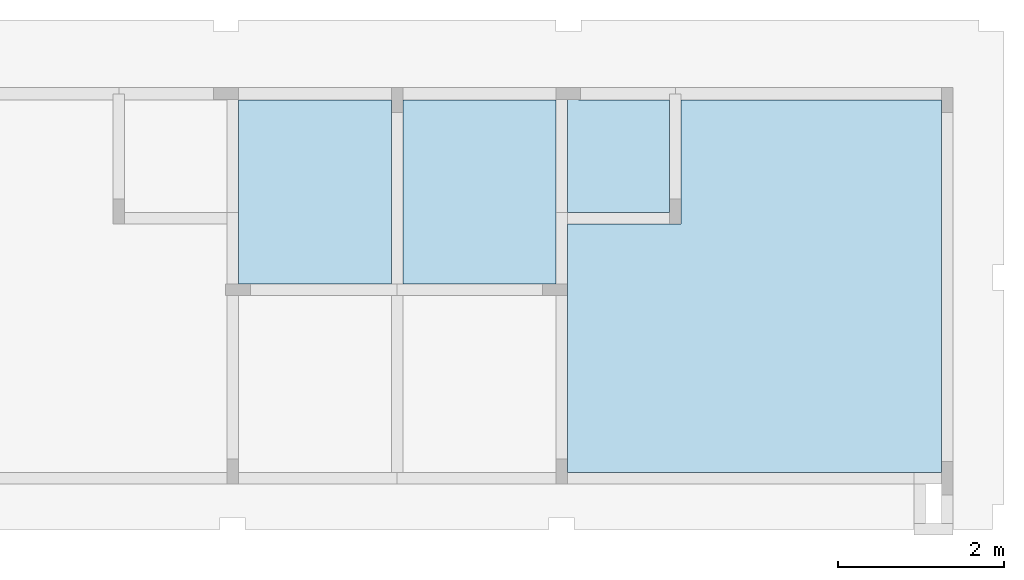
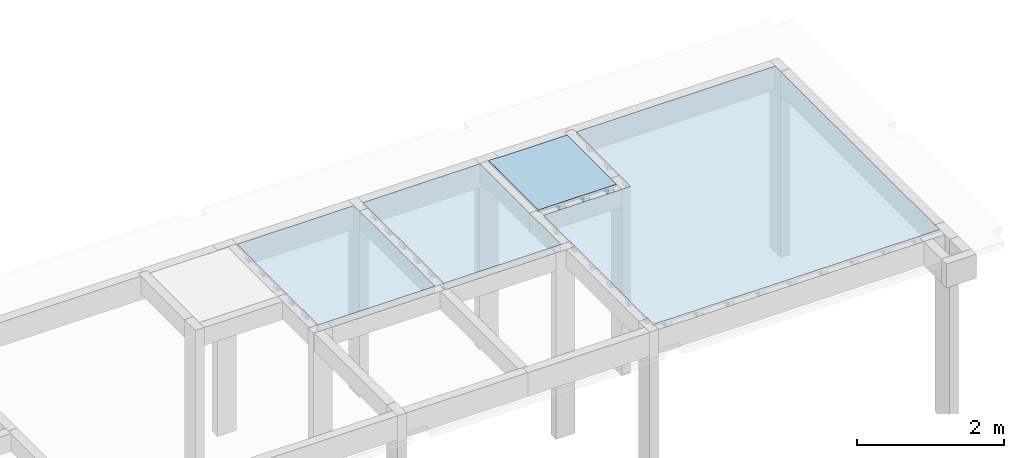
# One storey, part 4 of 4: 4 slabs.
"""IFC4 building model written with IfcOpenShell, lengths in centimetres."""

from ifc_helpers import new_model, si_unit, derived_unit, frame, origin_with_axes, place, context, project, spatial, polyline, outline, extrude, faceted_brep, material, element, save


model = new_model("IFC4")

# Units and contexts
model_context = context("Model", 3, precision=1e-05, world=origin_with_axes(), identifier="Body")
ifc_project = project(units=[si_unit("LENGTHUNIT", "METRE", prefix="CENTI"), si_unit("VOLUMEUNIT", "CUBIC_METRE"), si_unit("AREAUNIT", "SQUARE_METRE"), si_unit("POWERUNIT", "WATT"), si_unit("LUMINOUSFLUXUNIT", "LUMEN"), si_unit("ELECTRICCURRENTUNIT", "AMPERE"), si_unit("PRESSUREUNIT", "PASCAL", prefix="KILO"), si_unit("MASSUNIT", "GRAM", prefix="KILO"), si_unit("PLANEANGLEUNIT", "RADIAN"), derived_unit("VOLUMETRICFLOWRATEUNIT", [(si_unit("LENGTHUNIT", "METRE"), 3), (si_unit("TIMEUNIT", "SECOND"), -1)])], contexts=[model_context])

# Site, building, storey
site_placement = place(None, origin_with_axes())
site = spatial("IfcSite", under=ifc_project, at=site_placement)
building_placement = place(site_placement, frame((0.0, 0.0, 2.0)))
building = spatial("IfcBuilding", under=site, at=building_placement)
placement = place(building_placement, origin_with_axes())
storey_placement = place(placement, frame((0.0, 0.0, 310.0), z_axis=(0.0, 0.0, 1.0), x_axis=(1.0, 0.0, 0.0)))
storey = spatial("IfcBuildingStorey", under=building, at=storey_placement, Name="RESPALDO", CompositionType="ELEMENT", Elevation=312.0)

# Slabs
ifc_material = material(Name="Concreto")
slab_1_placement = place(storey_placement, frame((1082.305, 413.105, 0.0), z_axis=(0.0, 0.0, 1.0), x_axis=(1.0, 0.0, 0.0)))
element("IfcSlab", 1, at=slab_1_placement, inside=storey, material=ifc_material, Name="L6", PredefinedType="FLOOR", context=model_context, shape_type="SolidModel", body=[
    extrude(outline(polyline([(92.024, -110.524), (92.025, 110.525), (-92.025, 110.525), (-92.024, -110.525), (92.024, -110.524), (92.024, -110.524)])), frame((0.0, 0.0, -4.0), z_axis=(0.0, 0.0, 1.0), x_axis=(1.0, 0.0, 0.0)), (0.0, 0.0, 1.0), 4.0),
    faceted_brep([(-92.0245, -67.53, -12.0), (92.0245, -67.53, -12.0), (92.0245, -76.53, -12.0), (-92.0245, -76.53, -12.0), (-92.0245, -76.53, -4.0), (92.0245, -76.53, -4.0), (92.0245, -67.53, -4.0), (-92.0245, -67.53, -4.0)], [[[0, 1, 2, 3]], [[4, 5, 6, 7]], [[4, 3, 5]], [[3, 2, 5]], [[5, 2, 6]], [[2, 1, 6]], [[6, 1, 7]], [[1, 0, 7]], [[7, 0, 4]], [[0, 3, 4]]]),
    faceted_brep([(-92.0245, -66.03, -12.0), (92.0245, -66.03, -12.0), (92.0245, -67.53, -12.0), (-92.0245, -67.53, -12.0), (-92.0245, -67.53, -9.0), (92.0245, -67.53, -9.0), (92.0245, -66.03, -9.0), (-92.0245, -66.03, -9.0)], [[[0, 1, 2, 3]], [[4, 5, 6, 7]], [[4, 3, 5]], [[3, 2, 5]], [[5, 2, 6]], [[2, 1, 6]], [[6, 1, 7]], [[1, 0, 7]], [[7, 0, 4]], [[0, 3, 4]]]),
    faceted_brep([(-92.0245, -76.53, -12.0), (92.0245, -76.53, -12.0), (92.0245, -78.03, -12.0), (-92.0245, -78.03, -12.0), (-92.0245, -78.03, -9.0), (92.0245, -78.03, -9.0), (92.0245, -76.53, -9.0), (-92.0245, -76.53, -9.0)], [[[0, 1, 2, 3]], [[4, 5, 6, 7]], [[4, 3, 5]], [[3, 2, 5]], [[5, 2, 6]], [[2, 1, 6]], [[6, 1, 7]], [[1, 0, 7]], [[7, 0, 4]], [[0, 3, 4]]]),
    faceted_brep([(-92.0245, -28.53, -12.0), (92.0245, -28.53, -12.0), (92.0245, -37.53, -12.0), (-92.0245, -37.53, -12.0), (-92.0245, -37.53, -4.0), (92.0245, -37.53, -4.0), (92.0245, -28.53, -4.0), (-92.0245, -28.53, -4.0)], [[[0, 1, 2, 3]], [[4, 5, 6, 7]], [[4, 3, 5]], [[3, 2, 5]], [[5, 2, 6]], [[2, 1, 6]], [[6, 1, 7]], [[1, 0, 7]], [[7, 0, 4]], [[0, 3, 4]]]),
    faceted_brep([(-92.0245, -27.03, -12.0), (92.0245, -27.03, -12.0), (92.0245, -28.53, -12.0), (-92.0245, -28.53, -12.0), (-92.0245, -28.53, -9.0), (92.0245, -28.53, -9.0), (92.0245, -27.03, -9.0), (-92.0245, -27.03, -9.0)], [[[0, 1, 2, 3]], [[4, 5, 6, 7]], [[4, 3, 5]], [[3, 2, 5]], [[5, 2, 6]], [[2, 1, 6]], [[6, 1, 7]], [[1, 0, 7]], [[7, 0, 4]], [[0, 3, 4]]]),
    faceted_brep([(-92.0245, -37.53, -12.0), (92.0245, -37.53, -12.0), (92.0245, -39.03, -12.0), (-92.0245, -39.03, -12.0), (-92.0245, -39.03, -9.0), (92.0245, -39.03, -9.0), (92.0245, -37.53, -9.0), (-92.0245, -37.53, -9.0)], [[[0, 1, 2, 3]], [[4, 5, 6, 7]], [[4, 3, 5]], [[3, 2, 5]], [[5, 2, 6]], [[2, 1, 6]], [[6, 1, 7]], [[1, 0, 7]], [[7, 0, 4]], [[0, 3, 4]]]),
    faceted_brep([(-92.0245, 10.47, -12.0), (92.0245, 10.47, -12.0), (92.0245, 1.47, -12.0), (-92.0245, 1.47, -12.0), (-92.0245, 1.47, -4.0), (92.0245, 1.47, -4.0), (92.0245, 10.47, -4.0), (-92.0245, 10.47, -4.0)], [[[0, 1, 2, 3]], [[4, 5, 6, 7]], [[4, 3, 5]], [[3, 2, 5]], [[5, 2, 6]], [[2, 1, 6]], [[6, 1, 7]], [[1, 0, 7]], [[7, 0, 4]], [[0, 3, 4]]]),
    faceted_brep([(-92.0245, 11.97, -12.0), (92.0245, 11.97, -12.0), (92.0245, 10.47, -12.0), (-92.0245, 10.47, -12.0), (-92.0245, 10.47, -9.0), (92.0245, 10.47, -9.0), (92.0245, 11.97, -9.0), (-92.0245, 11.97, -9.0)], [[[0, 1, 2, 3]], [[4, 5, 6, 7]], [[4, 3, 5]], [[3, 2, 5]], [[5, 2, 6]], [[2, 1, 6]], [[6, 1, 7]], [[1, 0, 7]], [[7, 0, 4]], [[0, 3, 4]]]),
    faceted_brep([(-92.0245, 1.47, -12.0), (92.0245, 1.47, -12.0), (92.0245, -0.03, -12.0), (-92.0245, -0.03, -12.0), (-92.0245, -0.03, -9.0), (92.0245, -0.03, -9.0), (92.0245, 1.47, -9.0), (-92.0245, 1.47, -9.0)], [[[0, 1, 2, 3]], [[4, 5, 6, 7]], [[4, 3, 5]], [[3, 2, 5]], [[5, 2, 6]], [[2, 1, 6]], [[6, 1, 7]], [[1, 0, 7]], [[7, 0, 4]], [[0, 3, 4]]]),
    faceted_brep([(-92.0245, 49.47, -12.0), (92.0245, 49.47, -12.0), (92.0245, 40.47, -12.0), (-92.0245, 40.47, -12.0), (-92.0245, 40.47, -4.0), (92.0245, 40.47, -4.0), (92.0245, 49.47, -4.0), (-92.0245, 49.47, -4.0)], [[[0, 1, 2, 3]], [[4, 5, 6, 7]], [[4, 3, 5]], [[3, 2, 5]], [[5, 2, 6]], [[2, 1, 6]], [[6, 1, 7]], [[1, 0, 7]], [[7, 0, 4]], [[0, 3, 4]]]),
    faceted_brep([(-92.0245, 50.97, -12.0), (92.0245, 50.97, -12.0), (92.0245, 49.47, -12.0), (-92.0245, 49.47, -12.0), (-92.0245, 49.47, -9.0), (92.0245, 49.47, -9.0), (92.0245, 50.97, -9.0), (-92.0245, 50.97, -9.0)], [[[0, 1, 2, 3]], [[4, 5, 6, 7]], [[4, 3, 5]], [[3, 2, 5]], [[5, 2, 6]], [[2, 1, 6]], [[6, 1, 7]], [[1, 0, 7]], [[7, 0, 4]], [[0, 3, 4]]]),
    faceted_brep([(-92.0245, 40.47, -12.0), (92.0245, 40.47, -12.0), (92.0245, 38.97, -12.0), (-92.0245, 38.97, -12.0), (-92.0245, 38.97, -9.0), (92.0245, 38.97, -9.0), (92.0245, 40.47, -9.0), (-92.0245, 40.47, -9.0)], [[[0, 1, 2, 3]], [[4, 5, 6, 7]], [[4, 3, 5]], [[3, 2, 5]], [[5, 2, 6]], [[2, 1, 6]], [[6, 1, 7]], [[1, 0, 7]], [[7, 0, 4]], [[0, 3, 4]]]),
    faceted_brep([(-92.0245, 88.47, -12.0), (92.0245, 88.47, -12.0), (92.0245, 79.47, -12.0), (-92.0245, 79.47, -12.0), (-92.0245, 79.47, -4.0), (92.0245, 79.47, -4.0), (92.0245, 88.47, -4.0), (-92.0245, 88.47, -4.0)], [[[0, 1, 2, 3]], [[4, 5, 6, 7]], [[4, 3, 5]], [[3, 2, 5]], [[5, 2, 6]], [[2, 1, 6]], [[6, 1, 7]], [[1, 0, 7]], [[7, 0, 4]], [[0, 3, 4]]]),
    faceted_brep([(-92.0245, 89.97, -12.0), (92.0245, 89.97, -12.0), (92.0245, 88.47, -12.0), (-92.0245, 88.47, -12.0), (-92.0245, 88.47, -9.0), (92.0245, 88.47, -9.0), (92.0245, 89.97, -9.0), (-92.0245, 89.97, -9.0)], [[[0, 1, 2, 3]], [[4, 5, 6, 7]], [[4, 3, 5]], [[3, 2, 5]], [[5, 2, 6]], [[2, 1, 6]], [[6, 1, 7]], [[1, 0, 7]], [[7, 0, 4]], [[0, 3, 4]]]),
    faceted_brep([(-92.0245, 79.47, -12.0), (92.0245, 79.47, -12.0), (92.0245, 77.97, -12.0), (-92.0245, 77.97, -12.0), (-92.0245, 77.97, -9.0), (92.0245, 77.97, -9.0), (92.0245, 79.47, -9.0), (-92.0245, 79.47, -9.0)], [[[0, 1, 2, 3]], [[4, 5, 6, 7]], [[4, 3, 5]], [[3, 2, 5]], [[5, 2, 6]], [[2, 1, 6]], [[6, 1, 7]], [[1, 0, 7]], [[7, 0, 4]], [[0, 3, 4]]]),
    faceted_brep([(-92.0245, -106.53, -12.0), (92.0245, -106.53, -12.0), (92.0245, -110.5245, -12.0), (-92.0245, -110.5245, -12.0), (-92.0245, -110.5245, -4.0), (92.0245, -110.5245, -4.0), (92.0245, -106.53, -4.0), (-92.0245, -106.53, -4.0)], [[[0, 1, 2, 3]], [[4, 5, 6, 7]], [[4, 3, 5]], [[3, 2, 5]], [[5, 2, 6]], [[2, 1, 6]], [[6, 1, 7]], [[1, 0, 7]], [[7, 0, 4]], [[0, 3, 4]]]),
    faceted_brep([(-92.0245, -105.03, -12.0), (92.0245, -105.03, -12.0), (92.0245, -106.53, -12.0), (-92.0245, -106.53, -12.0), (-92.0245, -106.53, -9.0), (92.0245, -106.53, -9.0), (92.0245, -105.03, -9.0), (-92.0245, -105.03, -9.0)], [[[0, 1, 2, 3]], [[4, 5, 6, 7]], [[4, 3, 5]], [[3, 2, 5]], [[5, 2, 6]], [[2, 1, 6]], [[6, 1, 7]], [[1, 0, 7]], [[7, 0, 4]], [[0, 3, 4]]]),
])
slab_2_placement = place(storey_placement, frame((1280.355, 413.105, 0.0), z_axis=(0.0, 0.0, 1.0), x_axis=(1.0, 0.0, 0.0)))
element("IfcSlab", 2, at=slab_2_placement, inside=storey, material=ifc_material, Name="L7", PredefinedType="FLOOR", context=model_context, shape_type="SolidModel", body=[
    extrude(outline(polyline([(92.025, 110.525), (-92.025, 110.525), (-92.025, -110.524), (92.025, -110.525), (92.025, 110.525), (92.025, 110.525)])), frame((0.0, 0.0, -4.0), z_axis=(0.0, 0.0, 1.0), x_axis=(1.0, 0.0, 0.0)), (0.0, 0.0, 1.0), 4.0),
    faceted_brep([(-92.025, -67.53, -12.0), (92.025, -67.53, -12.0), (92.025, -76.53, -12.0), (-92.025, -76.53, -12.0), (-92.025, -76.53, -4.0), (92.025, -76.53, -4.0), (92.025, -67.53, -4.0), (-92.025, -67.53, -4.0)], [[[0, 1, 2, 3]], [[4, 5, 6, 7]], [[4, 3, 5]], [[3, 2, 5]], [[5, 2, 6]], [[2, 1, 6]], [[6, 1, 7]], [[1, 0, 7]], [[7, 0, 4]], [[0, 3, 4]]]),
    faceted_brep([(-92.025, -66.03, -12.0), (92.025, -66.03, -12.0), (92.025, -67.53, -12.0), (-92.025, -67.53, -12.0), (-92.025, -67.53, -9.0), (92.025, -67.53, -9.0), (92.025, -66.03, -9.0), (-92.025, -66.03, -9.0)], [[[0, 1, 2, 3]], [[4, 5, 6, 7]], [[4, 3, 5]], [[3, 2, 5]], [[5, 2, 6]], [[2, 1, 6]], [[6, 1, 7]], [[1, 0, 7]], [[7, 0, 4]], [[0, 3, 4]]]),
    faceted_brep([(-92.025, -76.53, -12.0), (92.025, -76.53, -12.0), (92.025, -78.03, -12.0), (-92.025, -78.03, -12.0), (-92.025, -78.03, -9.0), (92.025, -78.03, -9.0), (92.025, -76.53, -9.0), (-92.025, -76.53, -9.0)], [[[0, 1, 2, 3]], [[4, 5, 6, 7]], [[4, 3, 5]], [[3, 2, 5]], [[5, 2, 6]], [[2, 1, 6]], [[6, 1, 7]], [[1, 0, 7]], [[7, 0, 4]], [[0, 3, 4]]]),
    faceted_brep([(-92.025, -28.53, -12.0), (92.025, -28.53, -12.0), (92.025, -37.53, -12.0), (-92.025, -37.53, -12.0), (-92.025, -37.53, -4.0), (92.025, -37.53, -4.0), (92.025, -28.53, -4.0), (-92.025, -28.53, -4.0)], [[[0, 1, 2, 3]], [[4, 5, 6, 7]], [[4, 3, 5]], [[3, 2, 5]], [[5, 2, 6]], [[2, 1, 6]], [[6, 1, 7]], [[1, 0, 7]], [[7, 0, 4]], [[0, 3, 4]]]),
    faceted_brep([(-92.025, -27.03, -12.0), (92.025, -27.03, -12.0), (92.025, -28.53, -12.0), (-92.025, -28.53, -12.0), (-92.025, -28.53, -9.0), (92.025, -28.53, -9.0), (92.025, -27.03, -9.0), (-92.025, -27.03, -9.0)], [[[0, 1, 2, 3]], [[4, 5, 6, 7]], [[4, 3, 5]], [[3, 2, 5]], [[5, 2, 6]], [[2, 1, 6]], [[6, 1, 7]], [[1, 0, 7]], [[7, 0, 4]], [[0, 3, 4]]]),
    faceted_brep([(-92.025, -37.53, -12.0), (92.025, -37.53, -12.0), (92.025, -39.03, -12.0), (-92.025, -39.03, -12.0), (-92.025, -39.03, -9.0), (92.025, -39.03, -9.0), (92.025, -37.53, -9.0), (-92.025, -37.53, -9.0)], [[[0, 1, 2, 3]], [[4, 5, 6, 7]], [[4, 3, 5]], [[3, 2, 5]], [[5, 2, 6]], [[2, 1, 6]], [[6, 1, 7]], [[1, 0, 7]], [[7, 0, 4]], [[0, 3, 4]]]),
    faceted_brep([(-92.025, 10.47, -12.0), (92.025, 10.47, -12.0), (92.025, 1.47, -12.0), (-92.025, 1.47, -12.0), (-92.025, 1.47, -4.0), (92.025, 1.47, -4.0), (92.025, 10.47, -4.0), (-92.025, 10.47, -4.0)], [[[0, 1, 2, 3]], [[4, 5, 6, 7]], [[4, 3, 5]], [[3, 2, 5]], [[5, 2, 6]], [[2, 1, 6]], [[6, 1, 7]], [[1, 0, 7]], [[7, 0, 4]], [[0, 3, 4]]]),
    faceted_brep([(-92.025, 11.97, -12.0), (92.025, 11.97, -12.0), (92.025, 10.47, -12.0), (-92.025, 10.47, -12.0), (-92.025, 10.47, -9.0), (92.025, 10.47, -9.0), (92.025, 11.97, -9.0), (-92.025, 11.97, -9.0)], [[[0, 1, 2, 3]], [[4, 5, 6, 7]], [[4, 3, 5]], [[3, 2, 5]], [[5, 2, 6]], [[2, 1, 6]], [[6, 1, 7]], [[1, 0, 7]], [[7, 0, 4]], [[0, 3, 4]]]),
    faceted_brep([(-92.025, 1.47, -12.0), (92.025, 1.47, -12.0), (92.025, -0.03, -12.0), (-92.025, -0.03, -12.0), (-92.025, -0.03, -9.0), (92.025, -0.03, -9.0), (92.025, 1.47, -9.0), (-92.025, 1.47, -9.0)], [[[0, 1, 2, 3]], [[4, 5, 6, 7]], [[4, 3, 5]], [[3, 2, 5]], [[5, 2, 6]], [[2, 1, 6]], [[6, 1, 7]], [[1, 0, 7]], [[7, 0, 4]], [[0, 3, 4]]]),
    faceted_brep([(-92.025, 49.47, -12.0), (92.025, 49.47, -12.0), (92.025, 40.47, -12.0), (-92.025, 40.47, -12.0), (-92.025, 40.47, -4.0), (92.025, 40.47, -4.0), (92.025, 49.47, -4.0), (-92.025, 49.47, -4.0)], [[[0, 1, 2, 3]], [[4, 5, 6, 7]], [[4, 3, 5]], [[3, 2, 5]], [[5, 2, 6]], [[2, 1, 6]], [[6, 1, 7]], [[1, 0, 7]], [[7, 0, 4]], [[0, 3, 4]]]),
    faceted_brep([(-92.025, 50.97, -12.0), (92.025, 50.97, -12.0), (92.025, 49.47, -12.0), (-92.025, 49.47, -12.0), (-92.025, 49.47, -9.0), (92.025, 49.47, -9.0), (92.025, 50.97, -9.0), (-92.025, 50.97, -9.0)], [[[0, 1, 2, 3]], [[4, 5, 6, 7]], [[4, 3, 5]], [[3, 2, 5]], [[5, 2, 6]], [[2, 1, 6]], [[6, 1, 7]], [[1, 0, 7]], [[7, 0, 4]], [[0, 3, 4]]]),
    faceted_brep([(-92.025, 40.47, -12.0), (92.025, 40.47, -12.0), (92.025, 38.97, -12.0), (-92.025, 38.97, -12.0), (-92.025, 38.97, -9.0), (92.025, 38.97, -9.0), (92.025, 40.47, -9.0), (-92.025, 40.47, -9.0)], [[[0, 1, 2, 3]], [[4, 5, 6, 7]], [[4, 3, 5]], [[3, 2, 5]], [[5, 2, 6]], [[2, 1, 6]], [[6, 1, 7]], [[1, 0, 7]], [[7, 0, 4]], [[0, 3, 4]]]),
    faceted_brep([(-92.025, 88.47, -12.0), (92.025, 88.47, -12.0), (92.025, 79.47, -12.0), (-92.025, 79.47, -12.0), (-92.025, 79.47, -4.0), (92.025, 79.47, -4.0), (92.025, 88.47, -4.0), (-92.025, 88.47, -4.0)], [[[0, 1, 2, 3]], [[4, 5, 6, 7]], [[4, 3, 5]], [[3, 2, 5]], [[5, 2, 6]], [[2, 1, 6]], [[6, 1, 7]], [[1, 0, 7]], [[7, 0, 4]], [[0, 3, 4]]]),
    faceted_brep([(-92.025, 89.97, -12.0), (92.025, 89.97, -12.0), (92.025, 88.47, -12.0), (-92.025, 88.47, -12.0), (-92.025, 88.47, -9.0), (92.025, 88.47, -9.0), (92.025, 89.97, -9.0), (-92.025, 89.97, -9.0)], [[[0, 1, 2, 3]], [[4, 5, 6, 7]], [[4, 3, 5]], [[3, 2, 5]], [[5, 2, 6]], [[2, 1, 6]], [[6, 1, 7]], [[1, 0, 7]], [[7, 0, 4]], [[0, 3, 4]]]),
    faceted_brep([(-92.025, 79.47, -12.0), (92.025, 79.47, -12.0), (92.025, 77.97, -12.0), (-92.025, 77.97, -12.0), (-92.025, 77.97, -9.0), (92.025, 77.97, -9.0), (92.025, 79.47, -9.0), (-92.025, 79.47, -9.0)], [[[0, 1, 2, 3]], [[4, 5, 6, 7]], [[4, 3, 5]], [[3, 2, 5]], [[5, 2, 6]], [[2, 1, 6]], [[6, 1, 7]], [[1, 0, 7]], [[7, 0, 4]], [[0, 3, 4]]]),
    faceted_brep([(-92.025, -106.53, -12.0), (92.025, -106.53, -12.0), (92.025, -110.5245, -12.0), (-92.025, -110.5245, -12.0), (-92.025, -110.5245, -4.0), (92.025, -110.5245, -4.0), (92.025, -106.53, -4.0), (-92.025, -106.53, -4.0)], [[[0, 1, 2, 3]], [[4, 5, 6, 7]], [[4, 3, 5]], [[3, 2, 5]], [[5, 2, 6]], [[2, 1, 6]], [[6, 1, 7]], [[1, 0, 7]], [[7, 0, 4]], [[0, 3, 4]]]),
    faceted_brep([(-92.025, -105.03, -12.0), (92.025, -105.03, -12.0), (92.025, -106.53, -12.0), (-92.025, -106.53, -12.0), (-92.025, -106.53, -9.0), (92.025, -106.53, -9.0), (92.025, -105.03, -9.0), (-92.025, -105.03, -9.0)], [[[0, 1, 2, 3]], [[4, 5, 6, 7]], [[4, 3, 5]], [[3, 2, 5]], [[5, 2, 6]], [[2, 1, 6]], [[6, 1, 7]], [[1, 0, 7]], [[7, 0, 4]], [[0, 3, 4]]]),
])
slab_3_placement = place(storey_placement, frame((1447.8995, 456.6145, 0.0), z_axis=(0.0, 0.0, 1.0), x_axis=(1.0, 0.0, 0.0)))
element("IfcSlab", 3, at=slab_3_placement, inside=storey, material=ifc_material, Name="L8", PredefinedType="FLOOR", context=model_context, shape_type="SolidModel", body=[
    extrude(outline(polyline([(61.519, -68.024), (61.519, 67.014), (-48.519, 67.015), (-48.317, 68.024), (-61.519, 68.024), (-61.52, -68.025), (61.519, -68.024), (61.519, -68.024)])), frame((0.0005, 0.0005, -4.0), z_axis=(0.0, 0.0, 1.0), x_axis=(1.0, 0.0, 0.0)), (0.0, 0.0, 1.0), 4.0),
    faceted_brep([(-27.5195, -68.024, -12.0), (-27.5195, 67.015, -12.0), (-19.5195, 67.015, -12.0), (-19.5195, -68.024, -12.0), (-19.5195, -68.024, -4.0), (-19.5195, 67.015, -4.0), (-27.5195, 67.015, -4.0), (-27.5195, -68.024, -4.0)], [[[0, 1, 2, 3]], [[4, 5, 6, 7]], [[4, 3, 5]], [[3, 2, 5]], [[5, 2, 6]], [[2, 1, 6]], [[6, 1, 7]], [[1, 0, 7]], [[7, 0, 4]], [[0, 3, 4]]]),
    faceted_brep([(-29.0195, -68.024, -12.0), (-29.0195, 67.015, -12.0), (-27.5195, 67.015, -12.0), (-27.5195, -68.024, -12.0), (-27.5195, -68.024, -9.0), (-27.5195, 67.015, -9.0), (-29.0195, 67.015, -9.0), (-29.0195, -68.024, -9.0)], [[[0, 1, 2, 3]], [[4, 5, 6, 7]], [[4, 3, 5]], [[3, 2, 5]], [[5, 2, 6]], [[2, 1, 6]], [[6, 1, 7]], [[1, 0, 7]], [[7, 0, 4]], [[0, 3, 4]]]),
    faceted_brep([(-19.5195, -68.024, -12.0), (-19.5195, 67.015, -12.0), (-18.0195, 67.015, -12.0), (-18.0195, -68.024, -12.0), (-18.0195, -68.024, -9.0), (-18.0195, 67.015, -9.0), (-19.5195, 67.015, -9.0), (-19.5195, -68.024, -9.0)], [[[0, 1, 2, 3]], [[4, 5, 6, 7]], [[4, 3, 5]], [[3, 2, 5]], [[5, 2, 6]], [[2, 1, 6]], [[6, 1, 7]], [[1, 0, 7]], [[7, 0, 4]], [[0, 3, 4]]]),
    faceted_brep([(10.4805, -68.024, -12.0), (10.4805, 67.015, -12.0), (18.4805, 67.015, -12.0), (18.4805, -68.024, -12.0), (18.4805, -68.024, -4.0), (18.4805, 67.015, -4.0), (10.4805, 67.015, -4.0), (10.4805, -68.024, -4.0)], [[[0, 1, 2, 3]], [[4, 5, 6, 7]], [[4, 3, 5]], [[3, 2, 5]], [[5, 2, 6]], [[2, 1, 6]], [[6, 1, 7]], [[1, 0, 7]], [[7, 0, 4]], [[0, 3, 4]]]),
    faceted_brep([(8.9805, -68.024, -12.0), (8.9805, 67.015, -12.0), (10.4805, 67.015, -12.0), (10.4805, -68.024, -12.0), (10.4805, -68.024, -9.0), (10.4805, 67.015, -9.0), (8.9805, 67.015, -9.0), (8.9805, -68.024, -9.0)], [[[0, 1, 2, 3]], [[4, 5, 6, 7]], [[4, 3, 5]], [[3, 2, 5]], [[5, 2, 6]], [[2, 1, 6]], [[6, 1, 7]], [[1, 0, 7]], [[7, 0, 4]], [[0, 3, 4]]]),
    faceted_brep([(18.4805, -68.024, -12.0), (18.4805, 67.015, -12.0), (19.9805, 67.015, -12.0), (19.9805, -68.024, -12.0), (19.9805, -68.024, -9.0), (19.9805, 67.015, -9.0), (18.4805, 67.015, -9.0), (18.4805, -68.024, -9.0)], [[[0, 1, 2, 3]], [[4, 5, 6, 7]], [[4, 3, 5]], [[3, 2, 5]], [[5, 2, 6]], [[2, 1, 6]], [[6, 1, 7]], [[1, 0, 7]], [[7, 0, 4]], [[0, 3, 4]]]),
    faceted_brep([(48.4805, -68.024, -12.0), (48.4805, 67.015, -12.0), (56.4805, 67.015, -12.0), (56.4805, -68.024, -12.0), (56.4805, -68.024, -4.0), (56.4805, 67.015, -4.0), (48.4805, 67.015, -4.0), (48.4805, -68.024, -4.0)], [[[0, 1, 2, 3]], [[4, 5, 6, 7]], [[4, 3, 5]], [[3, 2, 5]], [[5, 2, 6]], [[2, 1, 6]], [[6, 1, 7]], [[1, 0, 7]], [[7, 0, 4]], [[0, 3, 4]]]),
    faceted_brep([(46.9805, -68.024, -12.0), (46.9805, 67.015, -12.0), (48.4805, 67.015, -12.0), (48.4805, -68.024, -12.0), (48.4805, -68.024, -9.0), (48.4805, 67.015, -9.0), (46.9805, 67.015, -9.0), (46.9805, -68.024, -9.0)], [[[0, 1, 2, 3]], [[4, 5, 6, 7]], [[4, 3, 5]], [[3, 2, 5]], [[5, 2, 6]], [[2, 1, 6]], [[6, 1, 7]], [[1, 0, 7]], [[7, 0, 4]], [[0, 3, 4]]]),
    faceted_brep([(56.4805, -68.024, -12.0), (56.4805, 67.015, -12.0), (57.9805, 67.015, -12.0), (57.9805, -68.024, -12.0), (57.9805, -68.024, -9.0), (57.9805, 67.015, -9.0), (56.4805, 67.015, -9.0), (56.4805, -68.024, -9.0)], [[[0, 1, 2, 3]], [[4, 5, 6, 7]], [[4, 3, 5]], [[3, 2, 5]], [[5, 2, 6]], [[2, 1, 6]], [[6, 1, 7]], [[1, 0, 7]], [[7, 0, 4]], [[0, 3, 4]]]),
])
slab_4_placement = place(storey_placement, frame((1611.44, 299.575, 0.0), z_axis=(0.0, 0.0, 1.0), x_axis=(1.0, 0.0, 0.0)))
element("IfcSlab", 4, at=slab_4_placement, inside=storey, material=ifc_material, Name="L9", PredefinedType="FLOOR", context=model_context, shape_type="SolidModel", body=[
    extrude(outline(polyline([(225.059, -224.055), (225.06, 224.055), (-88.02, 224.055), (-88.019, 75.014), (-225.06, 75.015), (-225.059, -224.054), (225.059, -224.055), (225.059, -224.055)])), frame((0.0, 0.0, -4.0), z_axis=(0.0, 0.0, 1.0), x_axis=(1.0, 0.0, 0.0)), (0.0, 0.0, 1.0), 4.0),
    faceted_brep([(-205.06, -224.0545, -12.0), (-205.06, 75.0145, -12.0), (-196.06, 75.0145, -12.0), (-196.06, -224.0545, -12.0), (-196.06, -224.0545, -4.0), (-196.06, 75.0145, -4.0), (-205.06, 75.0145, -4.0), (-205.06, -224.0545, -4.0)], [[[0, 1, 2, 3]], [[4, 5, 6, 7]], [[4, 3, 5]], [[3, 2, 5]], [[5, 2, 6]], [[2, 1, 6]], [[6, 1, 7]], [[1, 0, 7]], [[7, 0, 4]], [[0, 3, 4]]]),
    faceted_brep([(-206.56, -224.0545, -12.0), (-206.56, 75.0145, -12.0), (-205.06, 75.0145, -12.0), (-205.06, -224.0545, -12.0), (-205.06, -224.0545, -9.0), (-205.06, 75.0145, -9.0), (-206.56, 75.0145, -9.0), (-206.56, -224.0545, -9.0)], [[[0, 1, 2, 3]], [[4, 5, 6, 7]], [[4, 3, 5]], [[3, 2, 5]], [[5, 2, 6]], [[2, 1, 6]], [[6, 1, 7]], [[1, 0, 7]], [[7, 0, 4]], [[0, 3, 4]]]),
    faceted_brep([(-196.06, -224.0545, -12.0), (-196.06, 75.0145, -12.0), (-194.56, 75.0145, -12.0), (-194.56, -224.0545, -12.0), (-194.56, -224.0545, -9.0), (-194.56, 75.0145, -9.0), (-196.06, 75.0145, -9.0), (-196.06, -224.0545, -9.0)], [[[0, 1, 2, 3]], [[4, 5, 6, 7]], [[4, 3, 5]], [[3, 2, 5]], [[5, 2, 6]], [[2, 1, 6]], [[6, 1, 7]], [[1, 0, 7]], [[7, 0, 4]], [[0, 3, 4]]]),
    faceted_brep([(-156.06, -224.0545, -12.0), (-156.06, 75.0145, -12.0), (-147.06, 75.0145, -12.0), (-147.06, -224.0545, -12.0), (-147.06, -224.0545, -4.0), (-147.06, 75.0145, -4.0), (-156.06, 75.0145, -4.0), (-156.06, -224.0545, -4.0)], [[[0, 1, 2, 3]], [[4, 5, 6, 7]], [[4, 3, 5]], [[3, 2, 5]], [[5, 2, 6]], [[2, 1, 6]], [[6, 1, 7]], [[1, 0, 7]], [[7, 0, 4]], [[0, 3, 4]]]),
    faceted_brep([(-157.56, -224.0545, -12.0), (-157.56, 75.0145, -12.0), (-156.06, 75.0145, -12.0), (-156.06, -224.0545, -12.0), (-156.06, -224.0545, -9.0), (-156.06, 75.0145, -9.0), (-157.56, 75.0145, -9.0), (-157.56, -224.0545, -9.0)], [[[0, 1, 2, 3]], [[4, 5, 6, 7]], [[4, 3, 5]], [[3, 2, 5]], [[5, 2, 6]], [[2, 1, 6]], [[6, 1, 7]], [[1, 0, 7]], [[7, 0, 4]], [[0, 3, 4]]]),
    faceted_brep([(-147.06, -224.0545, -12.0), (-147.06, 75.0145, -12.0), (-145.56, 75.0145, -12.0), (-145.56, -224.0545, -12.0), (-145.56, -224.0545, -9.0), (-145.56, 75.0145, -9.0), (-147.06, 75.0145, -9.0), (-147.06, -224.0545, -9.0)], [[[0, 1, 2, 3]], [[4, 5, 6, 7]], [[4, 3, 5]], [[3, 2, 5]], [[5, 2, 6]], [[2, 1, 6]], [[6, 1, 7]], [[1, 0, 7]], [[7, 0, 4]], [[0, 3, 4]]]),
    faceted_brep([(-107.06, -224.0545, -12.0), (-107.06, 75.0145, -12.0), (-98.06, 75.0145, -12.0), (-98.06, -224.0545, -12.0), (-98.06, -224.0545, -4.0), (-98.06, 75.0145, -4.0), (-107.06, 75.0145, -4.0), (-107.06, -224.0545, -4.0)], [[[0, 1, 2, 3]], [[4, 5, 6, 7]], [[4, 3, 5]], [[3, 2, 5]], [[5, 2, 6]], [[2, 1, 6]], [[6, 1, 7]], [[1, 0, 7]], [[7, 0, 4]], [[0, 3, 4]]]),
    faceted_brep([(-108.56, -224.0545, -12.0), (-108.56, 75.0145, -12.0), (-107.06, 75.0145, -12.0), (-107.06, -224.0545, -12.0), (-107.06, -224.0545, -9.0), (-107.06, 75.0145, -9.0), (-108.56, 75.0145, -9.0), (-108.56, -224.0545, -9.0)], [[[0, 1, 2, 3]], [[4, 5, 6, 7]], [[4, 3, 5]], [[3, 2, 5]], [[5, 2, 6]], [[2, 1, 6]], [[6, 1, 7]], [[1, 0, 7]], [[7, 0, 4]], [[0, 3, 4]]]),
    faceted_brep([(-98.06, -224.0545, -12.0), (-98.06, 75.0145, -12.0), (-96.56, 75.0145, -12.0), (-96.56, -224.0545, -12.0), (-96.56, -224.0545, -9.0), (-96.56, 75.0145, -9.0), (-98.06, 75.0145, -9.0), (-98.06, -224.0545, -9.0)], [[[0, 1, 2, 3]], [[4, 5, 6, 7]], [[4, 3, 5]], [[3, 2, 5]], [[5, 2, 6]], [[2, 1, 6]], [[6, 1, 7]], [[1, 0, 7]], [[7, 0, 4]], [[0, 3, 4]]]),
    faceted_brep([(-58.06, -224.0545, -12.0), (-58.06, 224.055, -12.0), (-49.06, 224.055, -12.0), (-49.06, -224.0545, -12.0), (-49.06, -224.0545, -4.0), (-49.06, 224.055, -4.0), (-58.06, 224.055, -4.0), (-58.06, -224.0545, -4.0)], [[[0, 1, 2, 3]], [[4, 5, 6, 7]], [[4, 3, 5]], [[3, 2, 5]], [[5, 2, 6]], [[2, 1, 6]], [[6, 1, 7]], [[1, 0, 7]], [[7, 0, 4]], [[0, 3, 4]]]),
    faceted_brep([(-59.56, -224.0545, -12.0), (-59.56, 224.055, -12.0), (-58.06, 224.055, -12.0), (-58.06, -224.0545, -12.0), (-58.06, -224.0545, -9.0), (-58.06, 224.055, -9.0), (-59.56, 224.055, -9.0), (-59.56, -224.0545, -9.0)], [[[0, 1, 2, 3]], [[4, 5, 6, 7]], [[4, 3, 5]], [[3, 2, 5]], [[5, 2, 6]], [[2, 1, 6]], [[6, 1, 7]], [[1, 0, 7]], [[7, 0, 4]], [[0, 3, 4]]]),
    faceted_brep([(-49.06, -224.0545, -12.0), (-49.06, 224.055, -12.0), (-47.56, 224.055, -12.0), (-47.56, -224.0545, -12.0), (-47.56, -224.0545, -9.0), (-47.56, 224.055, -9.0), (-49.06, 224.055, -9.0), (-49.06, -224.0545, -9.0)], [[[0, 1, 2, 3]], [[4, 5, 6, 7]], [[4, 3, 5]], [[3, 2, 5]], [[5, 2, 6]], [[2, 1, 6]], [[6, 1, 7]], [[1, 0, 7]], [[7, 0, 4]], [[0, 3, 4]]]),
    faceted_brep([(-9.06, -224.0545, -12.0), (-9.06, 224.055, -12.0), (-0.06, 224.055, -12.0), (-0.06, -224.0545, -12.0), (-0.06, -224.0545, -4.0), (-0.06, 224.055, -4.0), (-9.06, 224.055, -4.0), (-9.06, -224.0545, -4.0)], [[[0, 1, 2, 3]], [[4, 5, 6, 7]], [[4, 3, 5]], [[3, 2, 5]], [[5, 2, 6]], [[2, 1, 6]], [[6, 1, 7]], [[1, 0, 7]], [[7, 0, 4]], [[0, 3, 4]]]),
    faceted_brep([(-10.56, -224.0545, -12.0), (-10.56, 224.055, -12.0), (-9.06, 224.055, -12.0), (-9.06, -224.0545, -12.0), (-9.06, -224.0545, -9.0), (-9.06, 224.055, -9.0), (-10.56, 224.055, -9.0), (-10.56, -224.0545, -9.0)], [[[0, 1, 2, 3]], [[4, 5, 6, 7]], [[4, 3, 5]], [[3, 2, 5]], [[5, 2, 6]], [[2, 1, 6]], [[6, 1, 7]], [[1, 0, 7]], [[7, 0, 4]], [[0, 3, 4]]]),
    faceted_brep([(-0.06, -224.0545, -12.0), (-0.06, 224.055, -12.0), (1.44, 224.055, -12.0), (1.44, -224.0545, -12.0), (1.44, -224.0545, -9.0), (1.44, 224.055, -9.0), (-0.06, 224.055, -9.0), (-0.06, -224.0545, -9.0)], [[[0, 1, 2, 3]], [[4, 5, 6, 7]], [[4, 3, 5]], [[3, 2, 5]], [[5, 2, 6]], [[2, 1, 6]], [[6, 1, 7]], [[1, 0, 7]], [[7, 0, 4]], [[0, 3, 4]]]),
    faceted_brep([(39.94, -224.0545, -12.0), (39.94, 224.055, -12.0), (48.94, 224.055, -12.0), (48.94, -224.0545, -12.0), (48.94, -224.0545, -4.0), (48.94, 224.055, -4.0), (39.94, 224.055, -4.0), (39.94, -224.0545, -4.0)], [[[0, 1, 2, 3]], [[4, 5, 6, 7]], [[4, 3, 5]], [[3, 2, 5]], [[5, 2, 6]], [[2, 1, 6]], [[6, 1, 7]], [[1, 0, 7]], [[7, 0, 4]], [[0, 3, 4]]]),
    faceted_brep([(38.44, -224.0545, -12.0), (38.44, 224.055, -12.0), (39.94, 224.055, -12.0), (39.94, -224.0545, -12.0), (39.94, -224.0545, -9.0), (39.94, 224.055, -9.0), (38.44, 224.055, -9.0), (38.44, -224.0545, -9.0)], [[[0, 1, 2, 3]], [[4, 5, 6, 7]], [[4, 3, 5]], [[3, 2, 5]], [[5, 2, 6]], [[2, 1, 6]], [[6, 1, 7]], [[1, 0, 7]], [[7, 0, 4]], [[0, 3, 4]]]),
    faceted_brep([(48.94, -224.0545, -12.0), (48.94, 224.055, -12.0), (50.44, 224.055, -12.0), (50.44, -224.0545, -12.0), (50.44, -224.0545, -9.0), (50.44, 224.055, -9.0), (48.94, 224.055, -9.0), (48.94, -224.0545, -9.0)], [[[0, 1, 2, 3]], [[4, 5, 6, 7]], [[4, 3, 5]], [[3, 2, 5]], [[5, 2, 6]], [[2, 1, 6]], [[6, 1, 7]], [[1, 0, 7]], [[7, 0, 4]], [[0, 3, 4]]]),
    faceted_brep([(88.94, -224.0545, -12.0), (88.94, 224.055, -12.0), (97.94, 224.055, -12.0), (97.94, -224.0545, -12.0), (97.94, -224.0545, -4.0), (97.94, 224.055, -4.0), (88.94, 224.055, -4.0), (88.94, -224.0545, -4.0)], [[[0, 1, 2, 3]], [[4, 5, 6, 7]], [[4, 3, 5]], [[3, 2, 5]], [[5, 2, 6]], [[2, 1, 6]], [[6, 1, 7]], [[1, 0, 7]], [[7, 0, 4]], [[0, 3, 4]]]),
    faceted_brep([(87.44, -224.0545, -12.0), (87.44, 224.055, -12.0), (88.94, 224.055, -12.0), (88.94, -224.0545, -12.0), (88.94, -224.0545, -9.0), (88.94, 224.055, -9.0), (87.44, 224.055, -9.0), (87.44, -224.0545, -9.0)], [[[0, 1, 2, 3]], [[4, 5, 6, 7]], [[4, 3, 5]], [[3, 2, 5]], [[5, 2, 6]], [[2, 1, 6]], [[6, 1, 7]], [[1, 0, 7]], [[7, 0, 4]], [[0, 3, 4]]]),
    faceted_brep([(97.94, -224.0545, -12.0), (97.94, 224.055, -12.0), (99.44, 224.055, -12.0), (99.44, -224.0545, -12.0), (99.44, -224.0545, -9.0), (99.44, 224.055, -9.0), (97.94, 224.055, -9.0), (97.94, -224.0545, -9.0)], [[[0, 1, 2, 3]], [[4, 5, 6, 7]], [[4, 3, 5]], [[3, 2, 5]], [[5, 2, 6]], [[2, 1, 6]], [[6, 1, 7]], [[1, 0, 7]], [[7, 0, 4]], [[0, 3, 4]]]),
    faceted_brep([(137.94, -224.0545, -12.0), (137.94, 224.055, -12.0), (146.94, 224.055, -12.0), (146.94, -224.0545, -12.0), (146.94, -224.0545, -4.0), (146.94, 224.055, -4.0), (137.94, 224.055, -4.0), (137.94, -224.0545, -4.0)], [[[0, 1, 2, 3]], [[4, 5, 6, 7]], [[4, 3, 5]], [[3, 2, 5]], [[5, 2, 6]], [[2, 1, 6]], [[6, 1, 7]], [[1, 0, 7]], [[7, 0, 4]], [[0, 3, 4]]]),
    faceted_brep([(136.44, -224.0545, -12.0), (136.44, 224.055, -12.0), (137.94, 224.055, -12.0), (137.94, -224.0545, -12.0), (137.94, -224.0545, -9.0), (137.94, 224.055, -9.0), (136.44, 224.055, -9.0), (136.44, -224.0545, -9.0)], [[[0, 1, 2, 3]], [[4, 5, 6, 7]], [[4, 3, 5]], [[3, 2, 5]], [[5, 2, 6]], [[2, 1, 6]], [[6, 1, 7]], [[1, 0, 7]], [[7, 0, 4]], [[0, 3, 4]]]),
    faceted_brep([(146.94, -224.0545, -12.0), (146.94, 224.055, -12.0), (148.44, 224.055, -12.0), (148.44, -224.0545, -12.0), (148.44, -224.0545, -9.0), (148.44, 224.055, -9.0), (146.94, 224.055, -9.0), (146.94, -224.0545, -9.0)], [[[0, 1, 2, 3]], [[4, 5, 6, 7]], [[4, 3, 5]], [[3, 2, 5]], [[5, 2, 6]], [[2, 1, 6]], [[6, 1, 7]], [[1, 0, 7]], [[7, 0, 4]], [[0, 3, 4]]]),
    faceted_brep([(186.94, -224.0545, -12.0), (186.94, 224.055, -12.0), (195.94, 224.055, -12.0), (195.94, -224.0545, -12.0), (195.94, -224.0545, -4.0), (195.94, 224.055, -4.0), (186.94, 224.055, -4.0), (186.94, -224.0545, -4.0)], [[[0, 1, 2, 3]], [[4, 5, 6, 7]], [[4, 3, 5]], [[3, 2, 5]], [[5, 2, 6]], [[2, 1, 6]], [[6, 1, 7]], [[1, 0, 7]], [[7, 0, 4]], [[0, 3, 4]]]),
    faceted_brep([(185.44, -224.0545, -12.0), (185.44, 224.055, -12.0), (186.94, 224.055, -12.0), (186.94, -224.0545, -12.0), (186.94, -224.0545, -9.0), (186.94, 224.055, -9.0), (185.44, 224.055, -9.0), (185.44, -224.0545, -9.0)], [[[0, 1, 2, 3]], [[4, 5, 6, 7]], [[4, 3, 5]], [[3, 2, 5]], [[5, 2, 6]], [[2, 1, 6]], [[6, 1, 7]], [[1, 0, 7]], [[7, 0, 4]], [[0, 3, 4]]]),
    faceted_brep([(195.94, -224.0545, -12.0), (195.94, 224.055, -12.0), (197.44, 224.055, -12.0), (197.44, -224.0545, -12.0), (197.44, -224.0545, -9.0), (197.44, 224.055, -9.0), (195.94, 224.055, -9.0), (195.94, -224.0545, -9.0)], [[[0, 1, 2, 3]], [[4, 5, 6, 7]], [[4, 3, 5]], [[3, 2, 5]], [[5, 2, 6]], [[2, 1, 6]], [[6, 1, 7]], [[1, 0, 7]], [[7, 0, 4]], [[0, 3, 4]]]),
    faceted_brep([(-225.0595, -195.555, -12.0), (225.0595, -195.555, -12.0), (225.0595, -204.555, -12.0), (-225.0595, -204.555, -12.0), (-225.0595, -204.555, -4.0), (225.0595, -204.555, -4.0), (225.0595, -195.555, -4.0), (-225.0595, -195.555, -4.0)], [[[0, 1, 2, 3]], [[4, 5, 6, 7]], [[4, 3, 5]], [[3, 2, 5]], [[5, 2, 6]], [[2, 1, 6]], [[6, 1, 7]], [[1, 0, 7]], [[7, 0, 4]], [[0, 3, 4]]]),
    faceted_brep([(-225.0595, -146.555, -12.0), (225.0595, -146.555, -12.0), (225.0595, -155.555, -12.0), (-225.0595, -155.555, -12.0), (-225.0595, -155.555, -4.0), (225.0595, -155.555, -4.0), (225.0595, -146.555, -4.0), (-225.0595, -146.555, -4.0)], [[[0, 1, 2, 3]], [[4, 5, 6, 7]], [[4, 3, 5]], [[3, 2, 5]], [[5, 2, 6]], [[2, 1, 6]], [[6, 1, 7]], [[1, 0, 7]], [[7, 0, 4]], [[0, 3, 4]]]),
    faceted_brep([(-225.0595, -97.555, -12.0), (225.0595, -97.555, -12.0), (225.0595, -106.555, -12.0), (-225.0595, -106.555, -12.0), (-225.0595, -106.555, -4.0), (225.0595, -106.555, -4.0), (225.0595, -97.555, -4.0), (-225.0595, -97.555, -4.0)], [[[0, 1, 2, 3]], [[4, 5, 6, 7]], [[4, 3, 5]], [[3, 2, 5]], [[5, 2, 6]], [[2, 1, 6]], [[6, 1, 7]], [[1, 0, 7]], [[7, 0, 4]], [[0, 3, 4]]]),
    faceted_brep([(-225.0595, -48.555, -12.0), (225.0595, -48.555, -12.0), (225.0595, -57.555, -12.0), (-225.0595, -57.555, -12.0), (-225.0595, -57.555, -4.0), (225.0595, -57.555, -4.0), (225.0595, -48.555, -4.0), (-225.0595, -48.555, -4.0)], [[[0, 1, 2, 3]], [[4, 5, 6, 7]], [[4, 3, 5]], [[3, 2, 5]], [[5, 2, 6]], [[2, 1, 6]], [[6, 1, 7]], [[1, 0, 7]], [[7, 0, 4]], [[0, 3, 4]]]),
    faceted_brep([(-225.0595, 0.445, -12.0), (225.0595, 0.445, -12.0), (225.0595, -8.555, -12.0), (-225.0595, -8.555, -12.0), (-225.0595, -8.555, -4.0), (225.0595, -8.555, -4.0), (225.0595, 0.445, -4.0), (-225.0595, 0.445, -4.0)], [[[0, 1, 2, 3]], [[4, 5, 6, 7]], [[4, 3, 5]], [[3, 2, 5]], [[5, 2, 6]], [[2, 1, 6]], [[6, 1, 7]], [[1, 0, 7]], [[7, 0, 4]], [[0, 3, 4]]]),
    faceted_brep([(-225.0595, 49.445, -12.0), (225.0595, 49.445, -12.0), (225.0595, 40.445, -12.0), (-225.0595, 40.445, -12.0), (-225.0595, 40.445, -4.0), (225.0595, 40.445, -4.0), (225.0595, 49.445, -4.0), (-225.0595, 49.445, -4.0)], [[[0, 1, 2, 3]], [[4, 5, 6, 7]], [[4, 3, 5]], [[3, 2, 5]], [[5, 2, 6]], [[2, 1, 6]], [[6, 1, 7]], [[1, 0, 7]], [[7, 0, 4]], [[0, 3, 4]]]),
    faceted_brep([(-88.0195, 98.445, -12.0), (225.0595, 98.445, -12.0), (225.0595, 89.445, -12.0), (-88.0195, 89.445, -12.0), (-88.0195, 89.445, -4.0), (225.0595, 89.445, -4.0), (225.0595, 98.445, -4.0), (-88.0195, 98.445, -4.0)], [[[0, 1, 2, 3]], [[4, 5, 6, 7]], [[4, 3, 5]], [[3, 2, 5]], [[5, 2, 6]], [[2, 1, 6]], [[6, 1, 7]], [[1, 0, 7]], [[7, 0, 4]], [[0, 3, 4]]]),
    faceted_brep([(-88.0195, 147.445, -12.0), (225.0595, 147.445, -12.0), (225.0595, 138.445, -12.0), (-88.0195, 138.445, -12.0), (-88.0195, 138.445, -4.0), (225.0595, 138.445, -4.0), (225.0595, 147.445, -4.0), (-88.0195, 147.445, -4.0)], [[[0, 1, 2, 3]], [[4, 5, 6, 7]], [[4, 3, 5]], [[3, 2, 5]], [[5, 2, 6]], [[2, 1, 6]], [[6, 1, 7]], [[1, 0, 7]], [[7, 0, 4]], [[0, 3, 4]]]),
    faceted_brep([(-88.0195, 196.445, -12.0), (225.0595, 196.445, -12.0), (225.0595, 187.445, -12.0), (-88.0195, 187.445, -12.0), (-88.0195, 187.445, -4.0), (225.0595, 187.445, -4.0), (225.0595, 196.445, -4.0), (-88.0195, 196.445, -4.0)], [[[0, 1, 2, 3]], [[4, 5, 6, 7]], [[4, 3, 5]], [[3, 2, 5]], [[5, 2, 6]], [[2, 1, 6]], [[6, 1, 7]], [[1, 0, 7]], [[7, 0, 4]], [[0, 3, 4]]]),
])

save(model, "model.ifc")
